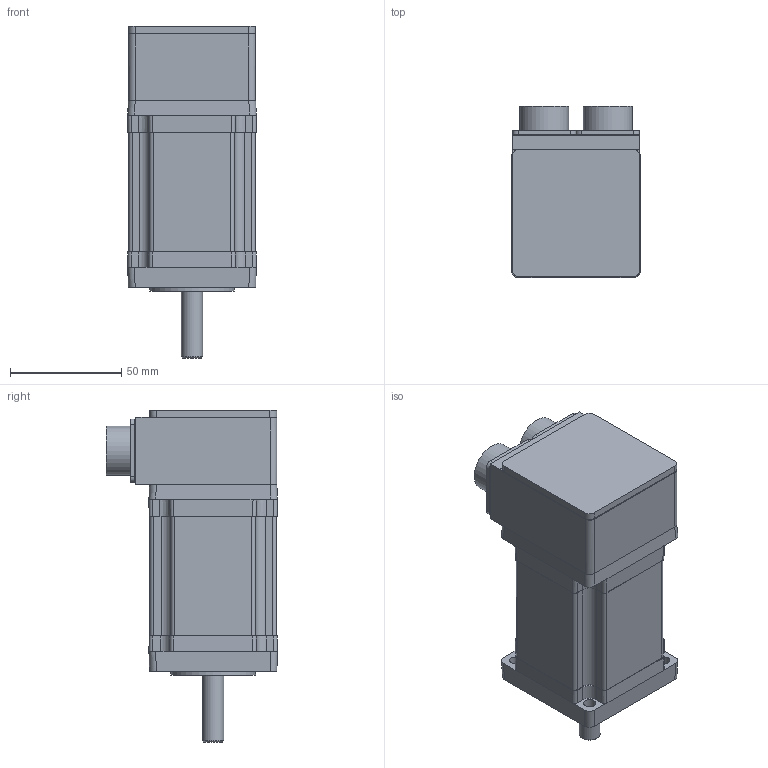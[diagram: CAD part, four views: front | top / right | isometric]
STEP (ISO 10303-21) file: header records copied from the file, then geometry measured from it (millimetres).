
FILE_DESCRIPTION((''),'2;1');
FILE_NAME('C:\CAD_work\Dummy_Modeling_Project_02-12-05\3D MODELS\BE232_MS_TQ.stp','2005-12-20T15:34:03',('jevans'),(''),'Autodesk Inventor 10','Autodesk Inventor 10','');
FILE_SCHEMA(('AUTOMOTIVE_DESIGN { 1 0 10303 214 1 1 1 1 }'));
Length unit declared in the file: inch
Products named in the file (1): BE23_MS_TQ
Bounding box: 57.95 x 77.05 x 149.51 mm (x, y, z)
Volume: 378870.6 mm3; surface area: 46133.9 mm2
Topology: 3 solids, 3 shells, 306 faces, 756 edges, 480 vertices
Faces by surface type: plane 135, cylinder 117, bspline 31, sphere 12, cone 8, torus 3
Full cylindrical faces by diameter (mm): 1.27 x2, 1.905 x26, 2.54 x4, 9.52 x1, 9.525 x1, 19.177 x1, 21.59 x1, 22.225 x1, 24.13 x1, 25.403 x1, 26 x1, 27.076 x1, 31.75 x3, 38.1 x1, 41.732 x1, 47.015 x1
Entity records: 8798 total; most frequent: CARTESIAN_POINT 1823, DIRECTION 1501, ORIENTED_EDGE 1300, EDGE_CURVE 650, AXIS2_PLACEMENT_3D 575, VERTEX_POINT 459, EDGE_LOOP 429, VECTOR 351
